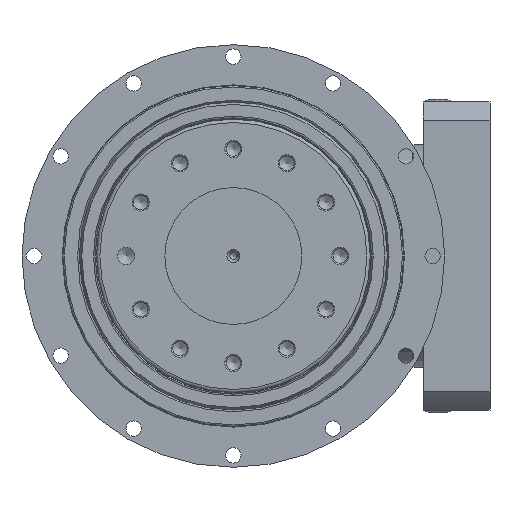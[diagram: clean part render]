
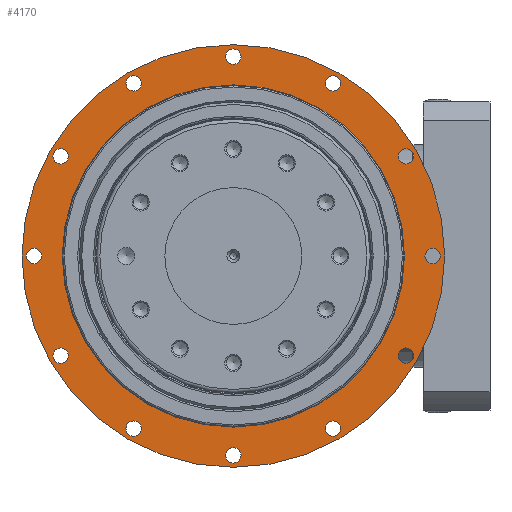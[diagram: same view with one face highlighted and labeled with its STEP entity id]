
A CAD part, left-side view. The second image highlights one B-rep face of the part: STEP entity #4170.
In plain terms, the highlighted planar face has unit normal (-1, 0, 0).
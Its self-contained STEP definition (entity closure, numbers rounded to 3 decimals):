
#13 = DIRECTION ( 'NONE',  ( -1., 0., 0. ) ) ;
#21 = DIRECTION ( 'NONE',  ( 0., 0., 1. ) ) ;
#55 = EDGE_LOOP ( 'NONE', ( #5218 ) ) ;
#140 = EDGE_CURVE ( 'NONE', #4999, #4999, #3255, .T. ) ;
#177 = VERTEX_POINT ( 'NONE', #5042 ) ;
#337 = AXIS2_PLACEMENT_3D ( 'NONE', #5869, #13462, #5743 ) ;
#378 = VERTEX_POINT ( 'NONE', #2250 ) ;
#444 = ORIENTED_EDGE ( 'NONE', *, *, #7002, .F. ) ;
#570 = EDGE_LOOP ( 'NONE', ( #444 ) ) ;
#795 = EDGE_LOOP ( 'NONE', ( #3690 ) ) ;
#811 = EDGE_CURVE ( 'NONE', #13841, #13841, #1419, .T. ) ;
#868 = FACE_BOUND ( 'NONE', #7686, .T. ) ;
#873 = DIRECTION ( 'NONE',  ( -1., 0., 0. ) ) ;
#973 = DIRECTION ( 'NONE',  ( 0., -1., 0. ) ) ;
#1051 = CIRCLE ( 'NONE', #5834, 4.5 ) ;
#1132 = CARTESIAN_POINT ( 'NONE',  ( -58., -105.392, -58.25 ) ) ;
#1191 = CIRCLE ( 'NONE', #7328, 4.5 ) ;
#1199 = AXIS2_PLACEMENT_3D ( 'NONE', #2830, #5401, #6719 ) ;
#1250 = DIRECTION ( 'NONE',  ( -1., 0., 0. ) ) ;
#1268 = CARTESIAN_POINT ( 'NONE',  ( -58., 0., 0. ) ) ;
#1333 = ORIENTED_EDGE ( 'NONE', *, *, #4223, .F. ) ;
#1419 = CIRCLE ( 'NONE', #3744, 100. ) ;
#1485 = AXIS2_PLACEMENT_3D ( 'NONE', #15108, #2252, #973 ) ;
#1515 = AXIS2_PLACEMENT_3D ( 'NONE', #12762, #1250, #5106 ) ;
#1559 = EDGE_CURVE ( 'NONE', #5382, #5382, #4804, .T. ) ;
#1590 = EDGE_CURVE ( 'NONE', #13036, #13036, #11248, .T. ) ;
#1675 = EDGE_LOOP ( 'NONE', ( #2475 ) ) ;
#1745 = CIRCLE ( 'NONE', #1515, 4.5 ) ;
#2065 = DIRECTION ( 'NONE',  ( -1., 0., 0. ) ) ;
#2184 = EDGE_CURVE ( 'NONE', #2781, #2781, #1191, .T. ) ;
#2226 = ORIENTED_EDGE ( 'NONE', *, *, #140, .T. ) ;
#2250 = CARTESIAN_POINT ( 'NONE',  ( -58., -105.392, 58.25 ) ) ;
#2252 = DIRECTION ( 'NONE',  ( -1., 0., 0. ) ) ;
#2475 = ORIENTED_EDGE ( 'NONE', *, *, #3167, .F. ) ;
#2572 = CARTESIAN_POINT ( 'NONE',  ( -58., 96.392, 58.25 ) ) ;
#2781 = VERTEX_POINT ( 'NONE', #6292 ) ;
#2830 = CARTESIAN_POINT ( 'NONE',  ( -58., 100.892, 58.25 ) ) ;
#3006 = EDGE_CURVE ( 'NONE', #177, #177, #1745, .T. ) ;
#3043 = FACE_BOUND ( 'NONE', #3799, .T. ) ;
#3123 = CIRCLE ( 'NONE', #337, 4.5 ) ;
#3167 = EDGE_CURVE ( 'NONE', #6195, #6195, #3123, .T. ) ;
#3255 = CIRCLE ( 'NONE', #5884, 123.5 ) ;
#3570 = AXIS2_PLACEMENT_3D ( 'NONE', #5559, #15956, #13327 ) ;
#3690 = ORIENTED_EDGE ( 'NONE', *, *, #11892, .F. ) ;
#3744 = AXIS2_PLACEMENT_3D ( 'NONE', #12703, #4990, #6295 ) ;
#3799 = EDGE_LOOP ( 'NONE', ( #11889 ) ) ;
#4170 = ADVANCED_FACE ( 'NONE', ( #13105, #8882, #9690, #5646, #15330, #9884, #3043, #11509, #11910, #12102, #16331, #12901, #868, #8076 ), #13271, .F. ) ;
#4223 = EDGE_CURVE ( 'NONE', #9009, #9009, #1051, .T. ) ;
#4402 = EDGE_LOOP ( 'NONE', ( #16544 ) ) ;
#4541 = CARTESIAN_POINT ( 'NONE',  ( -58., 0., 123.5 ) ) ;
#4580 = DIRECTION ( 'NONE',  ( 0., -1., 0. ) ) ;
#4804 = CIRCLE ( 'NONE', #1485, 4.5 ) ;
#4990 = DIRECTION ( 'NONE',  ( -1., 0., 0. ) ) ;
#4999 = VERTEX_POINT ( 'NONE', #4541 ) ;
#5042 = CARTESIAN_POINT ( 'NONE',  ( -58., -62.75, -100.892 ) ) ;
#5106 = DIRECTION ( 'NONE',  ( 0., -1., 0. ) ) ;
#5218 = ORIENTED_EDGE ( 'NONE', *, *, #1559, .F. ) ;
#5382 = VERTEX_POINT ( 'NONE', #11458 ) ;
#5401 = DIRECTION ( 'NONE',  ( -1., 0., 0. ) ) ;
#5503 = ORIENTED_EDGE ( 'NONE', *, *, #9006, .F. ) ;
#5559 = CARTESIAN_POINT ( 'NONE',  ( -58., 123.5, 0. ) ) ;
#5646 = FACE_BOUND ( 'NONE', #10791, .T. ) ;
#5677 = DIRECTION ( 'NONE',  ( 0., -1., 0. ) ) ;
#5743 = DIRECTION ( 'NONE',  ( 0., -1., 0. ) ) ;
#5785 = DIRECTION ( 'NONE',  ( 0., -1., 0. ) ) ;
#5834 = AXIS2_PLACEMENT_3D ( 'NONE', #9833, #873, #5785 ) ;
#5860 = EDGE_LOOP ( 'NONE', ( #11125 ) ) ;
#5869 = CARTESIAN_POINT ( 'NONE',  ( -58., 0., -116.5 ) ) ;
#5884 = AXIS2_PLACEMENT_3D ( 'NONE', #1268, #14107, #21 ) ;
#5967 = EDGE_CURVE ( 'NONE', #378, #378, #11153, .T. ) ;
#5968 = CARTESIAN_POINT ( 'NONE',  ( -58., 0., 116.5 ) ) ;
#6195 = VERTEX_POINT ( 'NONE', #13862 ) ;
#6292 = CARTESIAN_POINT ( 'NONE',  ( -58., 96.392, -58.25 ) ) ;
#6295 = DIRECTION ( 'NONE',  ( 0., 0., 1. ) ) ;
#6365 = ORIENTED_EDGE ( 'NONE', *, *, #1590, .F. ) ;
#6441 = EDGE_LOOP ( 'NONE', ( #2226 ) ) ;
#6607 = CARTESIAN_POINT ( 'NONE',  ( -58., -4.5, 116.5 ) ) ;
#6719 = DIRECTION ( 'NONE',  ( 0., -1., 0. ) ) ;
#6878 = CARTESIAN_POINT ( 'NONE',  ( -58., 100.892, -58.25 ) ) ;
#7002 = EDGE_CURVE ( 'NONE', #13646, #13646, #13609, .T. ) ;
#7328 = AXIS2_PLACEMENT_3D ( 'NONE', #6878, #15851, #8154 ) ;
#7462 = AXIS2_PLACEMENT_3D ( 'NONE', #5968, #12332, #13558 ) ;
#7686 = EDGE_LOOP ( 'NONE', ( #16372 ) ) ;
#7749 = CARTESIAN_POINT ( 'NONE',  ( -58., -121., 0. ) ) ;
#7793 = VERTEX_POINT ( 'NONE', #2572 ) ;
#8076 = FACE_OUTER_BOUND ( 'NONE', #6441, .T. ) ;
#8154 = DIRECTION ( 'NONE',  ( 0., -1., 0. ) ) ;
#8282 = AXIS2_PLACEMENT_3D ( 'NONE', #9455, #9564, #5677 ) ;
#8572 = EDGE_LOOP ( 'NONE', ( #6365 ) ) ;
#8882 = FACE_BOUND ( 'NONE', #55, .T. ) ;
#8956 = EDGE_CURVE ( 'NONE', #7793, #7793, #13684, .T. ) ;
#9006 = EDGE_CURVE ( 'NONE', #14422, #14422, #9486, .T. ) ;
#9009 = VERTEX_POINT ( 'NONE', #1132 ) ;
#9063 = DIRECTION ( 'NONE',  ( -1., 0., 0. ) ) ;
#9455 = CARTESIAN_POINT ( 'NONE',  ( -58., -58.25, 100.892 ) ) ;
#9486 = CIRCLE ( 'NONE', #8282, 4.5 ) ;
#9564 = DIRECTION ( 'NONE',  ( -1., 0., 0. ) ) ;
#9690 = FACE_BOUND ( 'NONE', #1675, .T. ) ;
#9833 = CARTESIAN_POINT ( 'NONE',  ( -58., -100.892, -58.25 ) ) ;
#9884 = FACE_BOUND ( 'NONE', #570, .T. ) ;
#10398 = AXIS2_PLACEMENT_3D ( 'NONE', #16586, #13, #15296 ) ;
#10400 = VERTEX_POINT ( 'NONE', #15639 ) ;
#10732 = AXIS2_PLACEMENT_3D ( 'NONE', #16214, #2065, #4580 ) ;
#10791 = EDGE_LOOP ( 'NONE', ( #16466 ) ) ;
#10952 = AXIS2_PLACEMENT_3D ( 'NONE', #14339, #9063, #11612 ) ;
#11125 = ORIENTED_EDGE ( 'NONE', *, *, #14004, .F. ) ;
#11153 = CIRCLE ( 'NONE', #10398, 4.5 ) ;
#11155 = AXIS2_PLACEMENT_3D ( 'NONE', #12206, #14716, #16074 ) ;
#11248 = CIRCLE ( 'NONE', #10732, 4.5 ) ;
#11458 = CARTESIAN_POINT ( 'NONE',  ( -58., 53.75, -100.892 ) ) ;
#11509 = FACE_BOUND ( 'NONE', #12626, .T. ) ;
#11612 = DIRECTION ( 'NONE',  ( 0., -1., 0. ) ) ;
#11748 = CIRCLE ( 'NONE', #7462, 4.5 ) ;
#11889 = ORIENTED_EDGE ( 'NONE', *, *, #5967, .F. ) ;
#11892 = EDGE_CURVE ( 'NONE', #15030, #15030, #11748, .T. ) ;
#11910 = FACE_BOUND ( 'NONE', #795, .T. ) ;
#12102 = FACE_BOUND ( 'NONE', #8572, .T. ) ;
#12206 = CARTESIAN_POINT ( 'NONE',  ( -58., 116.5, 0. ) ) ;
#12314 = CARTESIAN_POINT ( 'NONE',  ( -58., 0., 100. ) ) ;
#12332 = DIRECTION ( 'NONE',  ( -1., 0., 0. ) ) ;
#12486 = CIRCLE ( 'NONE', #11155, 4.5 ) ;
#12626 = EDGE_LOOP ( 'NONE', ( #5503 ) ) ;
#12703 = CARTESIAN_POINT ( 'NONE',  ( -58., 0., 0. ) ) ;
#12762 = CARTESIAN_POINT ( 'NONE',  ( -58., -58.25, -100.892 ) ) ;
#12901 = FACE_BOUND ( 'NONE', #5860, .T. ) ;
#13036 = VERTEX_POINT ( 'NONE', #16512 ) ;
#13105 = FACE_BOUND ( 'NONE', #16502, .T. ) ;
#13271 = PLANE ( 'NONE',  #3570 ) ;
#13327 = DIRECTION ( 'NONE',  ( 0., 0., -1. ) ) ;
#13462 = DIRECTION ( 'NONE',  ( -1., 0., 0. ) ) ;
#13558 = DIRECTION ( 'NONE',  ( 0., -1., 0. ) ) ;
#13609 = CIRCLE ( 'NONE', #10952, 4.5 ) ;
#13646 = VERTEX_POINT ( 'NONE', #7749 ) ;
#13684 = CIRCLE ( 'NONE', #1199, 4.5 ) ;
#13841 = VERTEX_POINT ( 'NONE', #12314 ) ;
#13862 = CARTESIAN_POINT ( 'NONE',  ( -58., -4.5, -116.5 ) ) ;
#13970 = ORIENTED_EDGE ( 'NONE', *, *, #2184, .F. ) ;
#14004 = EDGE_CURVE ( 'NONE', #10400, #10400, #12486, .T. ) ;
#14107 = DIRECTION ( 'NONE',  ( -1., 0., 0. ) ) ;
#14339 = CARTESIAN_POINT ( 'NONE',  ( -58., -116.5, 0. ) ) ;
#14422 = VERTEX_POINT ( 'NONE', #15332 ) ;
#14472 = EDGE_LOOP ( 'NONE', ( #1333 ) ) ;
#14716 = DIRECTION ( 'NONE',  ( -1., 0., 0. ) ) ;
#15030 = VERTEX_POINT ( 'NONE', #6607 ) ;
#15108 = CARTESIAN_POINT ( 'NONE',  ( -58., 58.25, -100.892 ) ) ;
#15296 = DIRECTION ( 'NONE',  ( 0., -1., 0. ) ) ;
#15330 = FACE_BOUND ( 'NONE', #14472, .T. ) ;
#15332 = CARTESIAN_POINT ( 'NONE',  ( -58., -62.75, 100.892 ) ) ;
#15639 = CARTESIAN_POINT ( 'NONE',  ( -58., 112., 0. ) ) ;
#15851 = DIRECTION ( 'NONE',  ( -1., 0., 0. ) ) ;
#15956 = DIRECTION ( 'NONE',  ( 1., 0., 0. ) ) ;
#16074 = DIRECTION ( 'NONE',  ( 0., -1., 0. ) ) ;
#16214 = CARTESIAN_POINT ( 'NONE',  ( -58., 58.25, 100.892 ) ) ;
#16331 = FACE_BOUND ( 'NONE', #4402, .T. ) ;
#16372 = ORIENTED_EDGE ( 'NONE', *, *, #811, .F. ) ;
#16466 = ORIENTED_EDGE ( 'NONE', *, *, #3006, .F. ) ;
#16502 = EDGE_LOOP ( 'NONE', ( #13970 ) ) ;
#16512 = CARTESIAN_POINT ( 'NONE',  ( -58., 53.75, 100.892 ) ) ;
#16544 = ORIENTED_EDGE ( 'NONE', *, *, #8956, .F. ) ;
#16586 = CARTESIAN_POINT ( 'NONE',  ( -58., -100.892, 58.25 ) ) ;
